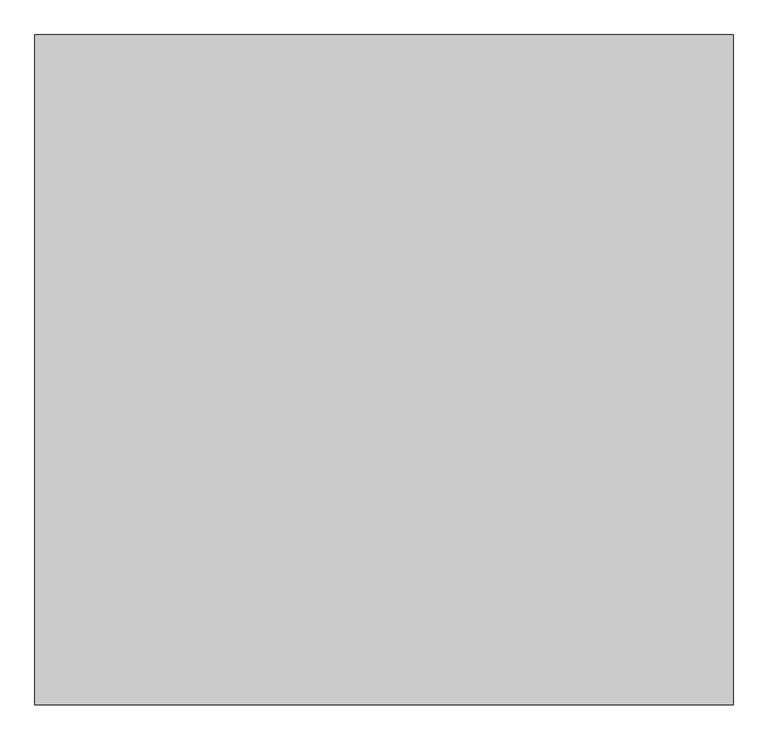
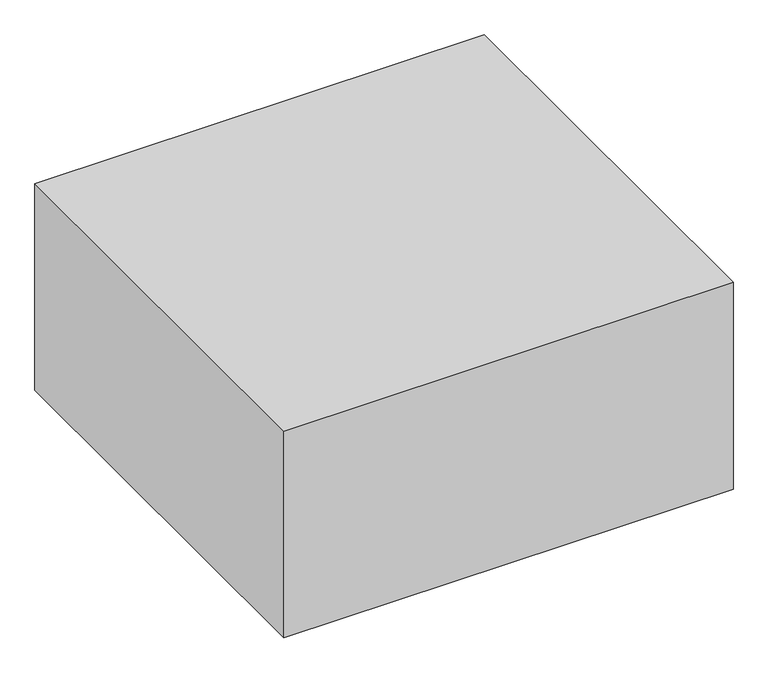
"""IFC4 building model written with IfcOpenShell, lengths in millimetres: furniture geometry, BIMHealth-Chair_Dialysis-LOD2A-v1 : BIMHealth-Chair_Dialysis-LOD2A-v1."""

from ifc_helpers import new_model, si_unit, point, frame, frame_2d, origin, origin_with_axes, place, context, project, spatial, polyline, circle_curve, trimmed, segment, composite_curve, outline, extrude, source, transform, mapped, element, save


def furniture_961e7f9c(model_context):
    return source(origin(), model_context, "Body", "SweptSolid", [
        extrude(outline(composite_curve([segment(trimmed(circle_curve(frame_2d((302.7936384, 540.0)), 7.5), [point((310.2936384, 540.0))], [point((295.2936384, 540.0))], False, "CARTESIAN"), True, "CONTINUOUS"), segment(trimmed(circle_curve(frame_2d((302.7936384, 540.0)), 7.5), [point((295.2936384, 540.0))], [point((310.2936384, 540.0))], False, "CARTESIAN"), True, "CONTINUOUS")], self_intersect=False)), frame((0.0, 0.0, 102.2775188), z_axis=(0.0, 0.0, 1.0), x_axis=(1.0, 0.0, 0.0)), (0.0, 0.0, 1.0), 20.0),
        extrude(outline(composite_curve([segment(polyline([(569.2564005, 102.2775188), (569.2564005, 80.5470471)]), True, "CONTINUOUS"), segment(trimmed(circle_curve(frame_2d((540.0, 40.0)), 50.0), [point((569.2564005, 80.5470471))], [point((510.7435995, 80.5470471))], True, "CARTESIAN"), True, "CONTINUOUS"), segment(polyline([(510.7435995, 80.5470471), (510.7435995, 102.2775188), (569.2564005, 102.2775188)]), True, "CONTINUOUS")], self_intersect=False)), frame((280.1679747, 0.0, 0.0), z_axis=(1.0, 0.0, 0.0), x_axis=(0.0, 1.0, 0.0)), (0.0, 0.0, 1.0), 45.2513275),
        extrude(outline(composite_curve([segment(trimmed(circle_curve(frame_2d((540.0, 40.0)), 40.0), [point((580.0, 40.0))], [point((500.0, 40.0))], True, "CARTESIAN"), True, "CONTINUOUS"), segment(polyline([(500.0, 40.0), (490.0, 40.0)]), True, "CONTINUOUS"), segment(trimmed(circle_curve(frame_2d((540.0, 40.0)), 50.0), [point((490.0, 40.0))], [point((590.0, 40.0))], False, "CARTESIAN"), True, "CONTINUOUS"), segment(polyline([(590.0, 40.0), (580.0, 40.0)]), True, "CONTINUOUS")], self_intersect=False)), frame((265.0, 0.0, 0.0), z_axis=(1.0, 0.0, 0.0), x_axis=(0.0, 1.0, 0.0)), (0.0, 0.0, 1.0), 75.0),
        extrude(outline(composite_curve([segment(trimmed(circle_curve(frame_2d((540.0, 40.0)), 40.0), [point((500.0, 40.0))], [point((580.0, 40.0))], False, "CARTESIAN"), True, "CONTINUOUS"), segment(trimmed(circle_curve(frame_2d((540.0, 40.0)), 40.0), [point((580.0, 40.0))], [point((500.0, 40.0))], False, "CARTESIAN"), True, "CONTINUOUS")], self_intersect=False)), frame((270.0, 0.0, 0.0), z_axis=(1.0, 0.0, 0.0), x_axis=(0.0, 1.0, 0.0)), (0.0, 0.0, 1.0), 20.0),
        extrude(outline(composite_curve([segment(trimmed(circle_curve(frame_2d((540.0, 40.0)), 40.0), [point((500.0, 40.0))], [point((580.0, 40.0))], False, "CARTESIAN"), True, "CONTINUOUS"), segment(trimmed(circle_curve(frame_2d((540.0, 40.0)), 40.0), [point((580.0, 40.0))], [point((500.0, 40.0))], False, "CARTESIAN"), True, "CONTINUOUS")], self_intersect=False)), frame((315.0, 0.0, 0.0), z_axis=(1.0, 0.0, 0.0), x_axis=(0.0, 1.0, 0.0)), (0.0, 0.0, 1.0), 20.0),
        extrude(outline(composite_curve([segment(trimmed(circle_curve(frame_2d((-302.7936384, 540.0)), 7.5), [point((-310.2936384, 540.0))], [point((-295.2936384, 540.0))], False, "CARTESIAN"), True, "CONTINUOUS"), segment(trimmed(circle_curve(frame_2d((-302.7936384, 540.0)), 7.5), [point((-295.2936384, 540.0))], [point((-310.2936384, 540.0))], False, "CARTESIAN"), True, "CONTINUOUS")], self_intersect=False)), frame((0.0, 0.0, 102.2775188), z_axis=(0.0, 0.0, 1.0), x_axis=(1.0, 0.0, 0.0)), (0.0, 0.0, 1.0), 20.0),
        extrude(outline(composite_curve([segment(polyline([(569.2564005, 102.2775188), (569.2564005, 80.5470471)]), True, "CONTINUOUS"), segment(trimmed(circle_curve(frame_2d((540.0, 40.0)), 50.0), [point((569.2564005, 80.5470471))], [point((510.7435995, 80.5470471))], True, "CARTESIAN"), True, "CONTINUOUS"), segment(polyline([(510.7435995, 80.5470471), (510.7435995, 102.2775188), (569.2564005, 102.2775188)]), True, "CONTINUOUS")], self_intersect=False)), frame((-325.4193021, 0.0, 0.0), z_axis=(1.0, 0.0, 0.0), x_axis=(0.0, 1.0, 0.0)), (0.0, 0.0, 1.0), 45.2513275),
        extrude(outline(composite_curve([segment(trimmed(circle_curve(frame_2d((540.0, 40.0)), 40.0), [point((580.0, 40.0))], [point((500.0, 40.0))], True, "CARTESIAN"), True, "CONTINUOUS"), segment(polyline([(500.0, 40.0), (490.0, 40.0)]), True, "CONTINUOUS"), segment(trimmed(circle_curve(frame_2d((540.0, 40.0)), 50.0), [point((490.0, 40.0))], [point((590.0, 40.0))], False, "CARTESIAN"), True, "CONTINUOUS"), segment(polyline([(590.0, 40.0), (580.0, 40.0)]), True, "CONTINUOUS")], self_intersect=False)), frame((-340.0, 0.0, 0.0), z_axis=(1.0, 0.0, 0.0), x_axis=(0.0, 1.0, 0.0)), (0.0, 0.0, 1.0), 75.0),
        extrude(outline(composite_curve([segment(trimmed(circle_curve(frame_2d((540.0, 40.0)), 40.0), [point((500.0, 40.0))], [point((580.0, 40.0))], False, "CARTESIAN"), True, "CONTINUOUS"), segment(trimmed(circle_curve(frame_2d((540.0, 40.0)), 40.0), [point((580.0, 40.0))], [point((500.0, 40.0))], False, "CARTESIAN"), True, "CONTINUOUS")], self_intersect=False)), frame((-290.0, 0.0, 0.0), z_axis=(1.0, 0.0, 0.0), x_axis=(0.0, 1.0, 0.0)), (0.0, 0.0, 1.0), 20.0),
        extrude(outline(composite_curve([segment(trimmed(circle_curve(frame_2d((540.0, 40.0)), 40.0), [point((500.0, 40.0))], [point((580.0, 40.0))], False, "CARTESIAN"), True, "CONTINUOUS"), segment(trimmed(circle_curve(frame_2d((540.0, 40.0)), 40.0), [point((580.0, 40.0))], [point((500.0, 40.0))], False, "CARTESIAN"), True, "CONTINUOUS")], self_intersect=False)), frame((-335.0, 0.0, 0.0), z_axis=(1.0, 0.0, 0.0), x_axis=(0.0, 1.0, 0.0)), (0.0, 0.0, 1.0), 20.0),
        extrude(outline(composite_curve([segment(trimmed(circle_curve(frame_2d((302.7936384, -540.0)), 7.5), [point((310.2936384, -540.0))], [point((295.2936384, -540.0))], False, "CARTESIAN"), True, "CONTINUOUS"), segment(trimmed(circle_curve(frame_2d((302.7936384, -540.0)), 7.5), [point((295.2936384, -540.0))], [point((310.2936384, -540.0))], False, "CARTESIAN"), True, "CONTINUOUS")], self_intersect=False)), frame((0.0, 0.0, 102.2775188), z_axis=(0.0, 0.0, 1.0), x_axis=(1.0, 0.0, 0.0)), (0.0, 0.0, 1.0), 20.0),
        extrude(outline(composite_curve([segment(polyline([(-569.2564005, 102.2775188), (-510.7435995, 102.2775188), (-510.7435995, 80.5470471)]), True, "CONTINUOUS"), segment(trimmed(circle_curve(frame_2d((-540.0, 40.0)), 50.0), [point((-510.7435995, 80.5470471))], [point((-569.2564005, 80.5470471))], True, "CARTESIAN"), True, "CONTINUOUS"), segment(polyline([(-569.2564005, 80.5470471), (-569.2564005, 102.2775188)]), True, "CONTINUOUS")], self_intersect=False)), frame((280.1679747, 0.0, 0.0), z_axis=(1.0, 0.0, 0.0), x_axis=(0.0, 1.0, 0.0)), (0.0, 0.0, 1.0), 45.2513275),
        extrude(outline(composite_curve([segment(polyline([(-580.0, 40.0), (-590.0, 40.0)]), True, "CONTINUOUS"), segment(trimmed(circle_curve(frame_2d((-540.0, 40.0)), 50.0), [point((-590.0, 40.0))], [point((-490.0, 40.0))], False, "CARTESIAN"), True, "CONTINUOUS"), segment(polyline([(-490.0, 40.0), (-500.0, 40.0)]), True, "CONTINUOUS"), segment(trimmed(circle_curve(frame_2d((-540.0, 40.0)), 40.0), [point((-500.0, 40.0))], [point((-580.0, 40.0))], True, "CARTESIAN"), True, "CONTINUOUS")], self_intersect=False)), frame((265.0, 0.0, 0.0), z_axis=(1.0, 0.0, 0.0), x_axis=(0.0, 1.0, 0.0)), (0.0, 0.0, 1.0), 75.0),
        extrude(outline(composite_curve([segment(trimmed(circle_curve(frame_2d((-540.0, 40.0)), 40.0), [point((-500.0, 40.0))], [point((-580.0, 40.0))], False, "CARTESIAN"), True, "CONTINUOUS"), segment(trimmed(circle_curve(frame_2d((-540.0, 40.0)), 40.0), [point((-580.0, 40.0))], [point((-500.0, 40.0))], False, "CARTESIAN"), True, "CONTINUOUS")], self_intersect=False)), frame((270.0, 0.0, 0.0), z_axis=(1.0, 0.0, 0.0), x_axis=(0.0, 1.0, 0.0)), (0.0, 0.0, 1.0), 20.0),
        extrude(outline(composite_curve([segment(trimmed(circle_curve(frame_2d((-540.0, 40.0)), 40.0), [point((-500.0, 40.0))], [point((-580.0, 40.0))], False, "CARTESIAN"), True, "CONTINUOUS"), segment(trimmed(circle_curve(frame_2d((-540.0, 40.0)), 40.0), [point((-580.0, 40.0))], [point((-500.0, 40.0))], False, "CARTESIAN"), True, "CONTINUOUS")], self_intersect=False)), frame((315.0, 0.0, 0.0), z_axis=(1.0, 0.0, 0.0), x_axis=(0.0, 1.0, 0.0)), (0.0, 0.0, 1.0), 20.0),
        extrude(outline(composite_curve([segment(trimmed(circle_curve(frame_2d((-302.7936384, -540.0)), 7.5), [point((-310.2936384, -540.0))], [point((-295.2936384, -540.0))], False, "CARTESIAN"), True, "CONTINUOUS"), segment(trimmed(circle_curve(frame_2d((-302.7936384, -540.0)), 7.5), [point((-295.2936384, -540.0))], [point((-310.2936384, -540.0))], False, "CARTESIAN"), True, "CONTINUOUS")], self_intersect=False)), frame((0.0, 0.0, 102.2775188), z_axis=(0.0, 0.0, 1.0), x_axis=(1.0, 0.0, 0.0)), (0.0, 0.0, 1.0), 20.0),
        extrude(outline(composite_curve([segment(polyline([(-569.2564005, 102.2775188), (-510.7435995, 102.2775188), (-510.7435995, 80.5470471)]), True, "CONTINUOUS"), segment(trimmed(circle_curve(frame_2d((-540.0, 40.0)), 50.0), [point((-510.7435995, 80.5470471))], [point((-569.2564005, 80.5470471))], True, "CARTESIAN"), True, "CONTINUOUS"), segment(polyline([(-569.2564005, 80.5470471), (-569.2564005, 102.2775188)]), True, "CONTINUOUS")], self_intersect=False)), frame((-325.4193021, 0.0, 0.0), z_axis=(1.0, 0.0, 0.0), x_axis=(0.0, 1.0, 0.0)), (0.0, 0.0, 1.0), 45.2513275),
        extrude(outline(composite_curve([segment(polyline([(-580.0, 40.0), (-590.0, 40.0)]), True, "CONTINUOUS"), segment(trimmed(circle_curve(frame_2d((-540.0, 40.0)), 50.0), [point((-590.0, 40.0))], [point((-490.0, 40.0))], False, "CARTESIAN"), True, "CONTINUOUS"), segment(polyline([(-490.0, 40.0), (-500.0, 40.0)]), True, "CONTINUOUS"), segment(trimmed(circle_curve(frame_2d((-540.0, 40.0)), 40.0), [point((-500.0, 40.0))], [point((-580.0, 40.0))], True, "CARTESIAN"), True, "CONTINUOUS")], self_intersect=False)), frame((-340.0, 0.0, 0.0), z_axis=(1.0, 0.0, 0.0), x_axis=(0.0, 1.0, 0.0)), (0.0, 0.0, 1.0), 75.0),
        extrude(outline(composite_curve([segment(trimmed(circle_curve(frame_2d((-540.0, 40.0)), 40.0), [point((-500.0, 40.0))], [point((-580.0, 40.0))], False, "CARTESIAN"), True, "CONTINUOUS"), segment(trimmed(circle_curve(frame_2d((-540.0, 40.0)), 40.0), [point((-580.0, 40.0))], [point((-500.0, 40.0))], False, "CARTESIAN"), True, "CONTINUOUS")], self_intersect=False)), frame((-290.0, 0.0, 0.0), z_axis=(1.0, 0.0, 0.0), x_axis=(0.0, 1.0, 0.0)), (0.0, 0.0, 1.0), 20.0),
        extrude(outline(composite_curve([segment(trimmed(circle_curve(frame_2d((-540.0, 40.0)), 40.0), [point((-500.0, 40.0))], [point((-580.0, 40.0))], False, "CARTESIAN"), True, "CONTINUOUS"), segment(trimmed(circle_curve(frame_2d((-540.0, 40.0)), 40.0), [point((-580.0, 40.0))], [point((-500.0, 40.0))], False, "CARTESIAN"), True, "CONTINUOUS")], self_intersect=False)), frame((-335.0, 0.0, 0.0), z_axis=(1.0, 0.0, 0.0), x_axis=(0.0, 1.0, 0.0)), (0.0, 0.0, 1.0), 20.0),
        extrude(outline(composite_curve([segment(polyline([(-29.9999999, -30.0), (-29.9999999, 90.0), (-29.9999999, 210.0)]), True, "CONTINUOUS"), segment(trimmed(circle_curve(frame_2d((0.0, 210.0)), 30.0), [point((-29.9999999, 210.0))], [point((0.0, 240.0))], False, "CARTESIAN"), True, "CONTINUOUS"), segment(polyline([(0.0, 240.0), (165.0, 240.0)]), True, "CONTINUOUS"), segment(trimmed(circle_curve(frame_2d((165.0, 210.0)), 30.0), [point((165.0, 240.0))], [point((195.0000001, 210.0))], False, "CARTESIAN"), True, "CONTINUOUS"), segment(polyline([(195.0000001, 210.0), (195.0000001, -30.0)]), True, "CONTINUOUS"), segment(trimmed(circle_curve(frame_2d((165.0, -30.0)), 30.0), [point((195.0000001, -30.0))], [point((165.0, -60.0))], False, "CARTESIAN"), True, "CONTINUOUS"), segment(polyline([(165.0, -60.0), (0.0, -60.0)]), True, "CONTINUOUS"), segment(trimmed(circle_curve(frame_2d((0.0, -30.0)), 30.0), [point((0.0, -60.0))], [point((-29.9999999, -30.0))], False, "CARTESIAN"), True, "CONTINUOUS")], self_intersect=False)), frame((-90.0, -970.9632437, 196.4316417), z_axis=(0.0, 0.8290375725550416, 0.559192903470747), x_axis=(0.0, -0.559192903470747, 0.8290375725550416)), (0.0, 0.0, 1.0), 35.0),
        extrude(outline(composite_curve([segment(polyline([(-116.0912704, -244.9885096), (-116.0912704, 35.0114904), (-116.0912704, 315.0114904)]), True, "CONTINUOUS"), segment(trimmed(circle_curve(frame_2d((0.0, 220.0229808)), 150.0), [point((-116.0912704, 315.0114904))], [point((1.8566102, 370.0114904))], False, "CARTESIAN"), True, "CONTINUOUS"), segment(polyline([(1.8566102, 370.0114904), (427.3401871, 291.5800329)]), True, "CONTINUOUS"), segment(trimmed(circle_curve(frame_2d((427.3401871, 235.0114904)), 56.5685425), [point((427.3401871, 291.5800329))], [point((483.9087296, 235.0114904))], False, "CARTESIAN"), True, "CONTINUOUS"), segment(polyline([(483.9087296, 235.0114904), (483.9087296, 35.0114904), (483.9087296, -164.9885096)]), True, "CONTINUOUS"), segment(trimmed(circle_curve(frame_2d((427.3401871, -164.9885096)), 56.5685425), [point((483.9087296, -164.9885096))], [point((427.3401871, -221.5570521))], False, "CARTESIAN"), True, "CONTINUOUS"), segment(polyline([(427.3401871, -221.5570521), (27.9748094, -297.3682803)]), True, "CONTINUOUS"), segment(trimmed(circle_curve(frame_2d((0.0, -150.0)), 150.0), [point((27.9748094, -297.3682803))], [point((-116.0912704, -244.9885096))], False, "CARTESIAN"), True, "CONTINUOUS")], self_intersect=False)), frame((-35.0114904, -501.6249069, 428.5690908), z_axis=(0.0, -0.5591929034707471, 0.8290375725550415), x_axis=(0.0, -0.8290375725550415, -0.5591929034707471)), (0.0, 0.0, 1.0), 75.0),
        extrude(outline(composite_curve([segment(polyline([(591.7725485, 1202.8483861), (472.0470878, 1049.6067847)]), True, "CONTINUOUS"), segment(trimmed(circle_curve(frame_2d((464.4717339, 1059.6675821)), 12.5938728), [point((472.0470878, 1049.6067847))], [point((454.5476267, 1067.4211445))], False, "CARTESIAN"), True, "CONTINUOUS"), segment(polyline([(454.5476267, 1067.4211445), (571.9069058, 1218.3331519)]), True, "CONTINUOUS"), segment(trimmed(circle_curve(frame_2d((581.8484412, 1210.6019485)), 12.5938728), [point((571.9069058, 1218.3331519))], [point((591.7725485, 1202.8483861))], False, "CARTESIAN"), True, "CONTINUOUS")], self_intersect=False)), frame((-200.0, 0.0, 0.0), z_axis=(1.0, 0.0, 0.0), x_axis=(0.0, 1.0, 0.0)), (0.0, 0.0, 1.0), 400.0),
        extrude(outline(composite_curve([segment(trimmed(circle_curve(frame_2d((160.0, -20.0)), 20.0), [point((160.0, 0.0))], [point((180.0, -20.0))], False, "CARTESIAN"), True, "CONTINUOUS"), segment(trimmed(circle_curve(frame_2d((-494.5967434, -20.0)), 674.5967434), [point((180.0, -20.0))], [point((129.5798496, -275.8990954))], False, "CARTESIAN"), True, "CONTINUOUS"), segment(trimmed(circle_curve(frame_2d((80.0, -252.1825397)), 54.9603175), [point((129.5798496, -275.8990954))], [point((30.1028283, -275.2239969))], False, "CARTESIAN"), True, "CONTINUOUS"), segment(trimmed(circle_curve(frame_2d((655.1074172, -20.0)), 675.1074172), [point((30.1028283, -275.2239969))], [point((-20.0, -20.0))], False, "CARTESIAN"), True, "CONTINUOUS"), segment(trimmed(circle_curve(frame_2d((0.0, -20.0)), 20.0), [point((-20.0, -20.0))], [point((0.0, 0.0))], False, "CARTESIAN"), True, "CONTINUOUS"), segment(polyline([(0.0, 0.0), (160.0, 0.0)]), True, "CONTINUOUS")], self_intersect=False)), frame((355.0, -156.827132, 727.9431933), z_axis=(0.0, -0.6713547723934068, 0.7411361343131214), x_axis=(1.0, 0.0, 0.0)), (0.0, 0.0, 1.0), 50.0),
        extrude(outline(composite_curve([segment(polyline([(-20.0, -20.0), (-20.0, 140.0)]), True, "CONTINUOUS"), segment(trimmed(circle_curve(frame_2d((0.0, 140.0)), 20.0), [point((-20.0, 140.0))], [point((0.0, 160.0))], False, "CARTESIAN"), True, "CONTINUOUS"), segment(trimmed(circle_curve(frame_2d((0.0, -515.1074172)), 675.1074172), [point((0.0, 160.0))], [point((255.2239968, 109.8971717))], False, "CARTESIAN"), True, "CONTINUOUS"), segment(trimmed(circle_curve(frame_2d((232.1825396, 60.0)), 54.9603175), [point((255.2239968, 109.8971717))], [point((255.8990953, 10.4201504))], False, "CARTESIAN"), True, "CONTINUOUS"), segment(trimmed(circle_curve(frame_2d((0.0, 634.5967434)), 674.5967434), [point((255.8990953, 10.4201504))], [point((0.0, -40.0))], False, "CARTESIAN"), True, "CONTINUOUS"), segment(trimmed(circle_curve(frame_2d((0.0, -20.0)), 20.0), [point((0.0, -40.0))], [point((-20.0, -20.0))], False, "CARTESIAN"), True, "CONTINUOUS")], self_intersect=False)), frame((-495.0, -171.6498547, 714.5160978), z_axis=(0.0, -0.6713547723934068, 0.7411361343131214), x_axis=(0.0, -0.7411361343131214, -0.6713547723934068)), (0.0, 0.0, 1.0), 50.0),
        extrude(outline(composite_curve([segment(trimmed(circle_curve(frame_2d((355.0, 394.2267516)), 20.0), [point((335.0, 394.2267516))], [point((355.0, 414.2267516))], False, "CARTESIAN"), True, "CONTINUOUS"), segment(polyline([(355.0, 414.2267516), (515.0, 414.2267516)]), True, "CONTINUOUS"), segment(trimmed(circle_curve(frame_2d((515.0, 394.2267516)), 20.0), [point((515.0, 414.2267516))], [point((535.0, 394.2267516))], False, "CARTESIAN"), True, "CONTINUOUS"), segment(polyline([(535.0, 394.2267516), (535.0, -168.6503365)]), True, "CONTINUOUS"), segment(trimmed(circle_curve(frame_2d((515.0, -168.6503365)), 20.0), [point((535.0, -168.6503365))], [point((515.0, -188.6503365))], False, "CARTESIAN"), True, "CONTINUOUS"), segment(polyline([(515.0, -188.6503365), (355.0, -188.6503365)]), True, "CONTINUOUS"), segment(trimmed(circle_curve(frame_2d((355.0, -168.6503365)), 20.0), [point((355.0, -188.6503365))], [point((335.0, -168.6503365))], False, "CARTESIAN"), True, "CONTINUOUS"), segment(polyline([(335.0, -168.6503365), (335.0, 394.2267516)]), True, "CONTINUOUS")], self_intersect=False)), frame((0.0, 0.0, 765.0), z_axis=(0.0, 0.0, 1.0), x_axis=(1.0, 0.0, 0.0)), (0.0, 0.0, 1.0), 75.0),
        extrude(outline(composite_curve([segment(polyline([(-335.0, 394.2267516), (-335.0, -168.6503365)]), True, "CONTINUOUS"), segment(trimmed(circle_curve(frame_2d((-355.0, -168.6503365)), 20.0), [point((-335.0, -168.6503365))], [point((-355.0, -188.6503365))], False, "CARTESIAN"), True, "CONTINUOUS"), segment(polyline([(-355.0, -188.6503365), (-515.0, -188.6503365)]), True, "CONTINUOUS"), segment(trimmed(circle_curve(frame_2d((-515.0, -168.6503365)), 20.0), [point((-515.0, -188.6503365))], [point((-535.0, -168.6503365))], False, "CARTESIAN"), True, "CONTINUOUS"), segment(polyline([(-535.0, -168.6503365), (-535.0, 394.2267516)]), True, "CONTINUOUS"), segment(trimmed(circle_curve(frame_2d((-515.0, 394.2267516)), 20.0), [point((-535.0, 394.2267516))], [point((-515.0, 414.2267516))], False, "CARTESIAN"), True, "CONTINUOUS"), segment(polyline([(-515.0, 414.2267516), (-355.0, 414.2267516)]), True, "CONTINUOUS"), segment(trimmed(circle_curve(frame_2d((-355.0, 394.2267516)), 20.0), [point((-355.0, 414.2267516))], [point((-335.0, 394.2267516))], False, "CARTESIAN"), True, "CONTINUOUS")], self_intersect=False)), frame((0.0, 0.0, 765.0), z_axis=(0.0, 0.0, 1.0), x_axis=(1.0, 0.0, 0.0)), (0.0, 0.0, 1.0), 75.0),
        extrude(outline(composite_curve([segment(polyline([(0.0, 0.0), (0.0, -670.0), (-700.0, -670.0)]), True, "CONTINUOUS"), segment(trimmed(circle_curve(frame_2d((-700.0, -570.0)), 100.0), [point((-700.0, -670.0))], [point((-800.0, -570.0))], False, "CARTESIAN"), True, "CONTINUOUS"), segment(polyline([(-800.0, -570.0), (-800.0, -100.0)]), True, "CONTINUOUS"), segment(trimmed(circle_curve(frame_2d((-700.0, -100.0)), 100.0), [point((-800.0, -100.0))], [point((-700.0, 0.0))], False, "CARTESIAN"), True, "CONTINUOUS"), segment(polyline([(-700.0, 0.0), (0.0, 0.0)]), True, "CONTINUOUS")], self_intersect=False)), frame((335.0, 191.7639885, 528.4338525), z_axis=(0.0, -0.7880107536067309, 0.615661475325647), x_axis=(0.0, -0.615661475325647, -0.7880107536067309)), (0.0, 0.0, 1.0), 100.0),
        extrude(outline(composite_curve([segment(trimmed(circle_curve(frame_2d((-387.0370869, 540.0)), 50.0), [point((-387.0370869, 490.0))], [point((-387.0370869, 590.0))], False, "CARTESIAN"), True, "CONTINUOUS"), segment(polyline([(-387.0370869, 590.0), (112.9629131, 590.0)]), True, "CONTINUOUS"), segment(trimmed(circle_curve(frame_2d((112.9629131, 540.0)), 50.0), [point((112.9629131, 590.0))], [point((112.9629131, 490.0))], False, "CARTESIAN"), True, "CONTINUOUS"), segment(polyline([(112.9629131, 490.0), (-387.0370869, 490.0)]), True, "CONTINUOUS")], self_intersect=False)), frame((-335.0, 0.0, 0.0), z_axis=(1.0, 0.0, 0.0), x_axis=(0.0, 1.0, 0.0)), (0.0, 0.0, 1.0), 670.0),
        extrude(outline(polyline([(-200.0, -337.0370869), (-200.0, 62.9629131), (200.0, 62.9629131), (200.0, -337.0370869), (0.0, -337.0370869), (-200.0, -337.0370869)])), frame((0.0, 0.0, 331.5685425), z_axis=(0.0, 0.0, 1.0), x_axis=(1.0, 0.0, 0.0)), (0.0, 0.0, 1.0), 158.4314575),
        extrude(outline(composite_curve([segment(polyline([(-600.0, 125.0), (-600.0, 275.0)]), True, "CONTINUOUS"), segment(trimmed(circle_curve(frame_2d((-543.4314575, 275.0)), 56.5685425), [point((-600.0, 275.0))], [point((-543.4314575, 331.5685425))], False, "CARTESIAN"), True, "CONTINUOUS"), segment(polyline([(-543.4314575, 331.5685425), (206.5685425, 331.5685425), (579.2083698, 232.2164303)]), True, "CONTINUOUS"), segment(trimmed(circle_curve(frame_2d((564.6446609, 200.0)), 35.3553391), [point((579.2083698, 232.2164303))], [point((600.0, 200.0))], False, "CARTESIAN"), True, "CONTINUOUS"), segment(polyline([(600.0, 200.0), (600.0, 125.0), (-600.0, 125.0)]), True, "CONTINUOUS")], self_intersect=False)), frame((-335.0, 0.0, 0.0), z_axis=(1.0, 0.0, 0.0), x_axis=(0.0, 1.0, 0.0)), (0.0, 0.0, 1.0), 670.0),
        extrude(outline(polyline([(-1335.0, 684.2931688), (1335.0, 684.2931688), (1335.0, -1880.0058599), (-1335.0, -1880.0058599), (-1335.0, 684.2931688)])), origin_with_axes(), (0.0, 0.0, 1.0), 1300.0),
    ])


if __name__ == "__main__":
    model = new_model("IFC4")
    model_context = context("Model", 3, world=origin())
    ifc_project = project(units=[si_unit("LENGTHUNIT", "METRE", prefix="MILLI")], contexts=[model_context])
    site = spatial("IfcSite", under=ifc_project)
    building = spatial("IfcBuilding", under=site)
    placement = place(None, origin())
    furniture_shape = furniture_961e7f9c(model_context)
    element("IfcFurniture", 1, ObjectType="BIMHealth-Chair_Dialysis-LOD2A-v1 : BIMHealth-Chair_Dialysis-LOD2A-v1", at=placement, inside=building, context=model_context, shape_type="MappedRepresentation", body=[
        mapped(furniture_shape, transform((0.0, 0.0, 0.0), x_axis=(1.0, 0.0, 0.0), y_axis=(0.0, 1.0, 0.0), z_axis=(0.0, 0.0, 1.0))),
    ])
    save(model, "model.ifc")
